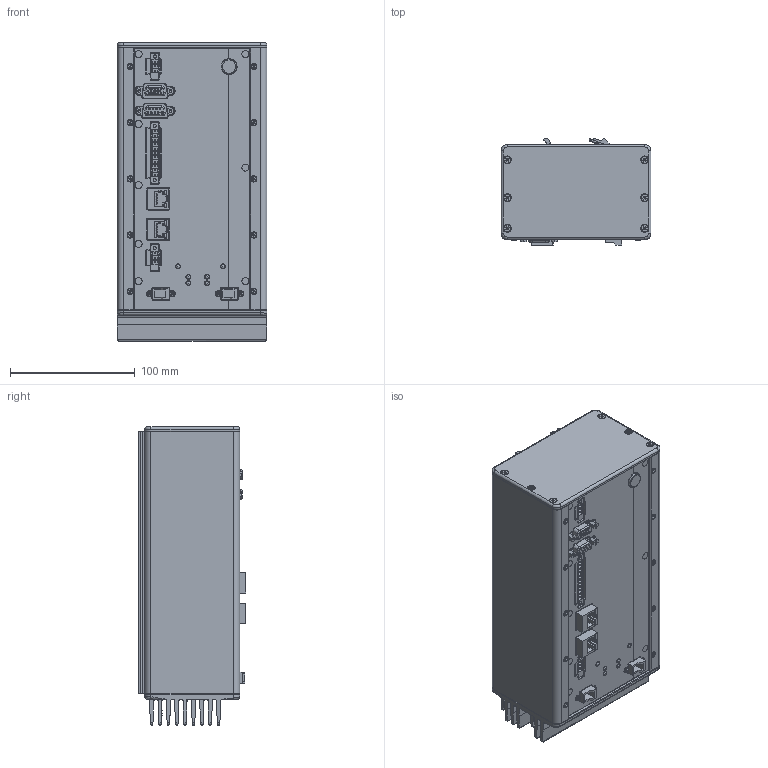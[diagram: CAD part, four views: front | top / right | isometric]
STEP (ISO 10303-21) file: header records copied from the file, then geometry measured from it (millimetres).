
FILE_DESCRIPTION (( 'STEP AP203' ), '1' );
FILE_NAME ('2612012 BG Controller IFC2421 2Kanal.STEP', '2015-12-08T15:33:40', ( 'MICRO-EPSILON Optronic GmbH' ), ( 'MICRO-EPSILON Optronic GmbH' ), 'SwSTEP 2.0', 'SolidWorks 2015', '' );
FILE_SCHEMA (( 'CONFIG_CONTROL_DESIGN' ));
Length unit declared in the file: millimetre
Products named in the file (1): 2612012 BG Controller IFC2421 2Kanal
Bounding box: 120 x 85.91 x 239 mm (x, y, z)
Volume: 1977276.6 mm3; surface area: 210446.7 mm2
Topology: 3 solids, 43 shells, 2914 faces, 7521 edges, 4749 vertices
Faces by surface type: plane 1891, cylinder 644, cone 267, torus 73, bspline 29, sphere 10
Full cylindrical faces by diameter (mm): 0.6 x24, 0.97 x2, 1.36 x1, 1.5 x12, 2 x4, 2.2 x8, 2.5 x22, 2.8 x6, 2.9 x6, 3 x30, 3.2 x12, 3.4 x20, 3.6 x6, 3.9 x6, 4 x4, 4.5 x12, 5 x14, 5.5 x16, 5.54 x2, 5.6 x8, 6.5 x4, 11.6 x1, 11.8 x1, 12.8 x1, 12.9 x1
Entity records: 86027 total; most frequent: CARTESIAN_POINT 17956, DIRECTION 13823, ORIENTED_EDGE 13804, EDGE_CURVE 6902, AXIS2_PLACEMENT_3D 4693, VERTEX_POINT 4562, LINE 4437, VECTOR 4437
